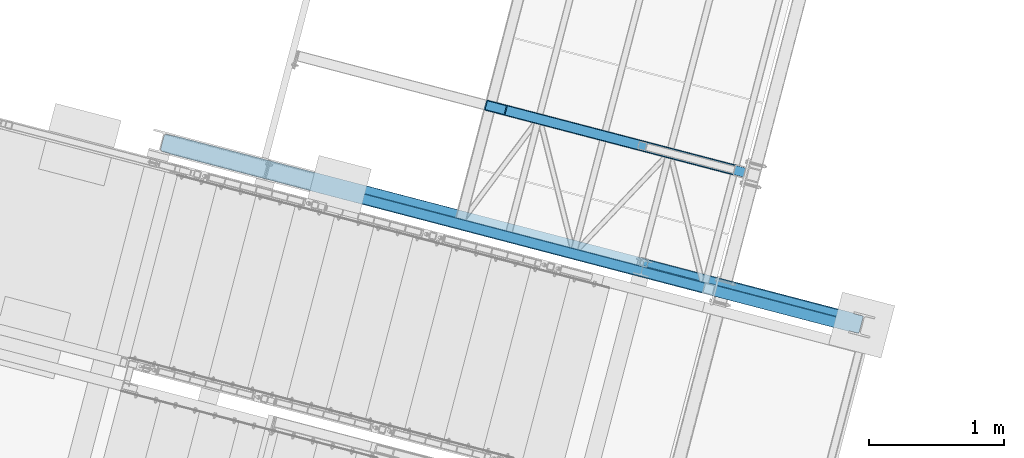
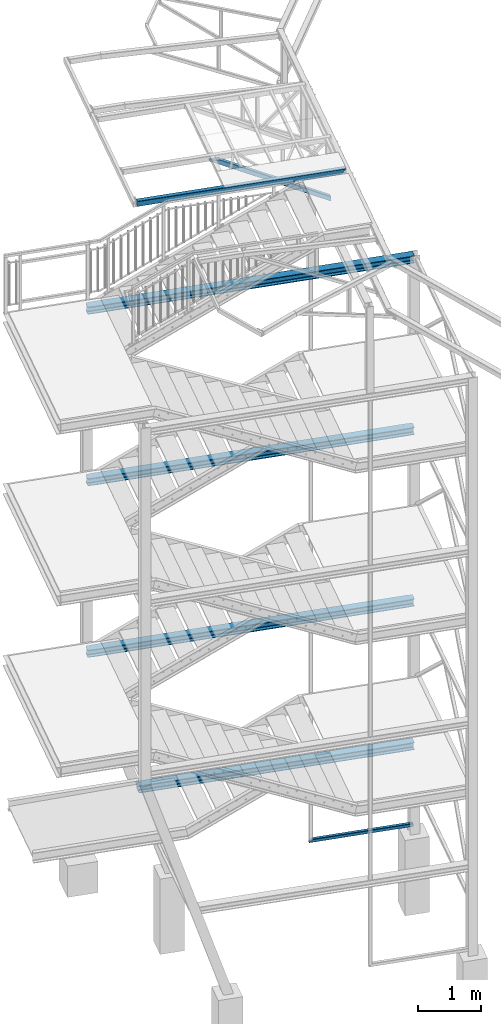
# One storey, part 47 of 169: 7 discrete accessories, 2 elements without a shape of their own.
"""IFC2X3 building model written with IfcOpenShell, lengths in millimetres."""

import ifcopenshell
import ifcopenshell.guid

model = None  # the IFC model being written
_history = None  # IfcOwnerHistory: only IFC2X3 demands one
_inside = {}  # id of a spatial element -> (the spatial element, [elements in it])
_under = {}  # id of a project, library or spatial element -> (it, [spatial elements below it])
_declared = {}  # id of a project -> (the project, [libraries it declares])
_typed = {}  # id of a type object -> (the type object, [elements of that type])
_made_of = {}  # id of a material, layer set ... -> (it, [elements and type objects made of it])


def new_model(schema):
    """Start an empty IFC model of exactly this schema.

    Asked for "IFC4X3", IfcOpenShell would pick the latest addendum, in which some entities
    have other attributes; the version numbers below select the first issue.
    IFC2X3 requires an IfcOwnerHistory on every rooted entity: one is made here for all.
    """
    global model, _history
    if schema == "IFC4X3":
        model = ifcopenshell.file(schema_version=(4, 3, 0, 0))
    else:
        model = ifcopenshell.file(schema=schema)
    _inside.clear()
    _under.clear()
    _declared.clear()
    _typed.clear()
    _made_of.clear()
    _history = None
    if model.schema == "IFC2X3":
        org = make("IfcOrganization", Name="unknown")
        user = make(
            "IfcPersonAndOrganization",
            ThePerson=make("IfcPerson", FamilyName="unknown"),
            TheOrganization=org,
        )
        app = make(
            "IfcApplication",
            ApplicationDeveloper=org,
            Version="unknown",
            ApplicationFullName="unknown",
            ApplicationIdentifier="unknown",
        )
        _history = make(
            "IfcOwnerHistory",
            OwningUser=user,
            OwningApplication=app,
            ChangeAction="ADDED",
            CreationDate=0,
        )
    return model


def make(cls, **values):
    """One entity of the class cls with the attributes given. An attribute that is None is left unset."""
    return model.create_entity(
        cls, **{name: value for name, value in values.items() if value is not None}
    )


def rooted(cls, **values):
    """An entity with a GlobalId (a new one), such as an element, a storey or a relation."""
    return make(cls, GlobalId=ifcopenshell.guid.new(), OwnerHistory=_history, **values)


def si_unit(unit_type, name, prefix=None):
    """IfcSIUnit, for example si_unit("LENGTHUNIT", "METRE", prefix="MILLI")."""
    return make("IfcSIUnit", UnitType=unit_type, Prefix=prefix, Name=name)


def assignment(units):
    """IfcUnitAssignment: the units of a project."""
    return None if units is None else make("IfcUnitAssignment", Units=units)


def point(xyz):
    """IfcCartesianPoint."""
    return None if xyz is None else make("IfcCartesianPoint", Coordinates=xyz)


def direction(xyz):
    """IfcDirection."""
    return None if xyz is None else make("IfcDirection", DirectionRatios=xyz)


def frame(location, z_axis=None, x_axis=None):
    """IfcAxis2Placement3D, a coordinate frame: its origin and axes. An axis left out is left unset."""
    return make(
        "IfcAxis2Placement3D",
        Location=point(location),
        Axis=direction(z_axis),
        RefDirection=direction(x_axis),
    )


def frame_2d(location, x_axis=None):
    """IfcAxis2Placement2D, a coordinate frame in the plane: its origin and x axis."""
    return make(
        "IfcAxis2Placement2D", Location=point(location), RefDirection=direction(x_axis)
    )


def origin_with_axes():
    """The frame at (0, 0, 0) with the z axis (0, 0, 1) and the x axis (1, 0, 0) written out."""
    return frame((0.0, 0.0, 0.0), z_axis=(0.0, 0.0, 1.0), x_axis=(1.0, 0.0, 0.0))


def origin_2d_with_axis():
    """The frame at (0, 0) in the plane with the x axis (1, 0) written out."""
    return frame_2d((0.0, 0.0), x_axis=(1.0, 0.0))


def place(relative_to, where):
    """IfcLocalPlacement: puts the frame where relative to a parent placement (None: the world)."""
    return make(
        "IfcLocalPlacement", PlacementRelTo=relative_to, RelativePlacement=where
    )


def context(
    kind, dimensions, precision=None, world=None, true_north=None, identifier=None
):
    """IfcGeometricRepresentationContext, for example the 3D "Model" context."""
    return make(
        "IfcGeometricRepresentationContext",
        ContextIdentifier=identifier,
        ContextType=kind,
        CoordinateSpaceDimension=dimensions,
        Precision=precision,
        WorldCoordinateSystem=world,
        TrueNorth=true_north,
    )


def subcontext(parent, identifier, kind, view, scale=None):
    """IfcGeometricRepresentationSubContext, for example "Body" below "Model"."""
    return make(
        "IfcGeometricRepresentationSubContext",
        ContextIdentifier=identifier,
        ContextType=kind,
        ParentContext=parent,
        TargetScale=scale,
        TargetView=view,
    )


def project(units=None, contexts=None):
    """IfcProject with its units and contexts."""
    return rooted(
        "IfcProject",
        Name="project",
        RepresentationContexts=contexts,
        UnitsInContext=assignment(units),
    )


def spatial(cls, under=None, at=None, **own):
    """A site, building, storey or space (cls), placed at a placement, below another one or the project."""
    s = rooted(cls, ObjectPlacement=at, **own)
    if under is not None:
        _under.setdefault(under.id(), (under, []))[1].append(s)
    return s


def polyline(points):
    """IfcPolyline through the points."""
    return make("IfcPolyline", Points=[point(p) for p in points])


def profile(cls, at=None, kind="AREA", **sizes):
    """A parametric profile (cls). Its sizes go by their IFC names, for example OverallWidth=200.0."""
    return make(cls, ProfileType=kind, Position=at, **sizes)


def hollow_rectangle(**sizes):
    """IfcRectangleHollowProfileDef."""
    return profile("IfcRectangleHollowProfileDef", **sizes)


def i_section(**sizes):
    """IfcIShapeProfileDef."""
    return profile("IfcIShapeProfileDef", **sizes)


def outline(outer, holes=None, kind="AREA"):
    """IfcArbitraryClosedProfileDef: a profile drawn as a closed curve; with holes, ...WithVoids."""
    if holes is None:
        return make("IfcArbitraryClosedProfileDef", ProfileType=kind, OuterCurve=outer)
    return make(
        "IfcArbitraryProfileDefWithVoids",
        ProfileType=kind,
        OuterCurve=outer,
        InnerCurves=holes,
    )


def extrude(swept, where, along, depth):
    """IfcExtrudedAreaSolid: the profile swept, set in the frame where, extruded along a direction by depth."""
    return make(
        "IfcExtrudedAreaSolid",
        SweptArea=swept,
        Position=where,
        ExtrudedDirection=direction(along),
        Depth=depth,
    )


def boolean(op, a, b):
    """IfcBooleanResult of two solids."""
    return make("IfcBooleanResult", Operator=op, FirstOperand=a, SecondOperand=b)


def clip(a, b, op="DIFFERENCE"):
    """IfcBooleanClippingResult: the solid a cut by the half space b."""
    return make(
        "IfcBooleanClippingResult", Operator=op, FirstOperand=a, SecondOperand=b
    )


def halfspace(plane, agree):
    """IfcHalfSpaceSolid: all space on one side of the plane z = 0 of the frame plane."""
    return make(
        "IfcHalfSpaceSolid",
        BaseSurface=make("IfcPlane", Position=plane),
        AgreementFlag=agree,
    )


def shape(context_of_items, identifier, shape_type, items):
    """IfcShapeRepresentation: the items that make up one representation, for example the "Body"."""
    return make(
        "IfcShapeRepresentation",
        ContextOfItems=context_of_items,
        RepresentationIdentifier=identifier,
        RepresentationType=shape_type,
        Items=items,
    )


def material(Name=None, Category=None):
    """IfcMaterial."""
    return make("IfcMaterial", Name=Name, Category=Category)


def made_of(thing, what):
    """Note that an element or type object is made of a material, layer set ...; save() writes the relation."""
    if what is not None:
        _made_of.setdefault(what.id(), (what, []))[1].append(thing)
    return thing


def type_object(cls, material=None, **own):
    """A type object (cls), such as IfcWallType, which elements share."""
    return made_of(rooted(cls, **own), material)


def element(
    cls,
    number,
    at=None,
    inside=None,
    cuts=None,
    type_object=None,
    material=None,
    context=None,
    identifier="Body",
    shape_type=None,
    held_by="IfcProductDefinitionShape",
    body=None,
    shapes=None,
    **own,
):
    """One element of the class cls, such as IfcWall. Its Tag is "e" and its number.

    at: its placement. inside: the storey or other place that contains it. cuts: it is an
    opening in that element (IfcRelVoidsElement). A single representation is given by context,
    identifier, shape_type and body (its items); several are given by shapes. held_by: the class
    of the entity that holds the representations. save() writes the other relations.
    """
    e = rooted(cls, Tag="e%d" % number, ObjectPlacement=at, **own)
    if body is not None:
        shapes = [shape(context, identifier, shape_type, body)]
    if shapes is not None:
        e.Representation = make(held_by, Representations=shapes)
    if inside is not None:
        _inside.setdefault(inside.id(), (inside, []))[1].append(e)
    if cuts is not None:
        rooted(
            "IfcRelVoidsElement", RelatingBuildingElement=cuts, RelatedOpeningElement=e
        )
    if type_object is not None:
        _typed.setdefault(type_object.id(), (type_object, []))[1].append(e)
    return made_of(e, material)


def aggregate(whole, parts):
    """IfcRelAggregates: a whole, such as a stair, and the parts it consists of."""
    return rooted("IfcRelAggregates", RelatingObject=whole, RelatedObjects=parts)


def save(model, path):
    """Write the relations noted so far, then the file.

    IfcRelAggregates (storeys below a building ...), IfcRelContainedInSpatialStructure (elements
    in a storey), IfcRelDefinesByType, IfcRelAssociatesMaterial and IfcRelDeclares: one each for
    every whole, place, type object, material and project.
    """
    for whole, parts in _under.values():
        aggregate(whole, parts)
    for where, things in _inside.values():
        rooted(
            "IfcRelContainedInSpatialStructure",
            RelatedElements=things,
            RelatingStructure=where,
        )
    for kind, things in _typed.values():
        rooted("IfcRelDefinesByType", RelatedObjects=things, RelatingType=kind)
    for what, things in _made_of.values():
        rooted("IfcRelAssociatesMaterial", RelatedObjects=things, RelatingMaterial=what)
    for by, libraries in _declared.values():
        rooted("IfcRelDeclares", RelatingContext=by, RelatedDefinitions=libraries)
    model.write(path)


model = new_model("IFC2X3")

# Units and contexts
model_context = context("Model", 3, precision=1e-05, world=origin_with_axes())
body_context = subcontext(model_context, "Body", "Model", "MODEL_VIEW")
ifc_project = project(units=[si_unit("LENGTHUNIT", "METRE", prefix="MILLI"), si_unit("AREAUNIT", "SQUARE_METRE"), si_unit("VOLUMEUNIT", "CUBIC_METRE"), si_unit("MASSUNIT", "GRAM", prefix="KILO"), si_unit("TIMEUNIT", "SECOND"), si_unit("PLANEANGLEUNIT", "RADIAN"), si_unit("SOLIDANGLEUNIT", "STERADIAN"), si_unit("THERMODYNAMICTEMPERATUREUNIT", "DEGREE_CELSIUS"), si_unit("LUMINOUSINTENSITYUNIT", "LUMEN")], contexts=[model_context])

# Site, building, storey
site_placement = place(None, origin_with_axes())
site = spatial("IfcSite", under=ifc_project, at=site_placement, Name="Undefined", CompositionType="ELEMENT")
building_placement = place(site_placement, origin_with_axes())
building = spatial("IfcBuilding", under=site, at=building_placement, Name="Undefined", CompositionType="ELEMENT")
storey_placement = place(building_placement, origin_with_axes())
storey = spatial("IfcBuildingStorey", under=building, at=storey_placement, Name="Undefined", CompositionType="ELEMENT", Elevation=0.0)

# Assembly, discrete accessories
assembly_1_placement = place(storey_placement, origin_with_axes())
assembly_1 = element("IfcElementAssembly", 1, at=assembly_1_placement, inside=storey, Name="Steel Assembly", AssemblyPlace="NOTDEFINED", PredefinedType="RIGID_FRAME")
ifc_material_1 = material(Name="STEEL/S355")
discrete_accessory_type_1 = type_object("IfcDiscreteAccessoryType", Name="BEAM")
discrete_accessory_1_placement = place(assembly_1_placement, frame((-23595.0401512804, 7908.83494133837, 13975.8197582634), z_axis=(-5.90399999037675e-06, -0.000139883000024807, -0.999999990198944), x_axis=(-0.967563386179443, 0.252628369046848, -2.9626000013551e-05)))
discrete_accessory_1 = element("IfcDiscreteAccessory", 2, at=discrete_accessory_1_placement, type_object=discrete_accessory_type_1, material=ifc_material_1, Name="BEAM", ObjectType="RHS100*80*4", context=body_context, shape_type="Clipping", body=[
    clip(clip(extrude(hollow_rectangle(XDim=80.0, YDim=100.0, WallThickness=4.0, InnerFilletRadius=4.0, OuterFilletRadius=8.0, at=origin_2d_with_axis()), frame((3416.99555623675, 1.37553656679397e-12, -1.15772312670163e-17), z_axis=(-1.0, -3.46944695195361e-18, -1.38777878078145e-17), x_axis=(1.73472347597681e-18, -1.0, 0.0)), (0.0, 0.0, 1.0), 3451.9), halfspace(frame((3416.99555622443, -9.36415744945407e-09, -50.0000000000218), z_axis=(-1.0, -3.46944695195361e-18, -1.38777878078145e-17), x_axis=(0.0, 1.0, 0.0)), True)), halfspace(frame((5.00000023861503, 6.82121026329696e-11, -50.0000000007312), z_axis=(-0.780868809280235, -4.01402798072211e-12, 0.624695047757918), x_axis=(0.0, 1.0, 0.0)), False)),
])
discrete_accessory_2_placement = place(assembly_1_placement, frame((-23336.8094832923, 8771.41920438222, 12810.374203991), z_axis=(-0.482291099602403, 0.125802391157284, -0.866930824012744), x_axis=(-0.838793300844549, 0.219077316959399, 0.498428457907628)))
discrete_accessory_2 = element("IfcDiscreteAccessory", 3, at=discrete_accessory_2_placement, type_object=discrete_accessory_type_1, material=ifc_material_1, Name="BEAM", ObjectType="SHS80*4", context=body_context, shape_type="Clipping", body=[
    clip(clip(extrude(hollow_rectangle(XDim=80.0, YDim=80.0, WallThickness=4.0, InnerFilletRadius=4.0, OuterFilletRadius=8.0, at=origin_2d_with_axis()), frame((2365.31932809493, -1.42091715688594e-12, -1.36424205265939e-12), z_axis=(-1.0, -3.46944695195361e-18, -1.38777878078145e-17), x_axis=(1.73472347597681e-18, -1.0, 0.0)), (0.0, 0.0, 1.0), 2450.45), halfspace(frame((3179.86809858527, -2.91447577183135e-09, 541.799949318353), z_axis=(-0.498454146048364, 1.6126674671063e-10, 0.866916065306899), x_axis=(1.73472347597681e-18, -1.0, 0.0)), True)), halfspace(frame((42.6242954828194, -38.6984627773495, 1.33514276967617e-07), z_axis=(0.86687176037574, 6.4399397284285e-09, 0.498531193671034), x_axis=(-0.498531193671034, 4.97002474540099e-11, 0.86687176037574)), True)),
])
aggregate(assembly_1, [discrete_accessory_1, discrete_accessory_2])

assembly_2_placement = place(storey_placement, origin_with_axes())
assembly_2 = element("IfcElementAssembly", 4, at=assembly_2_placement, inside=storey, Name="Steel Assembly", AssemblyPlace="NOTDEFINED", PredefinedType="RIGID_FRAME")
ifc_material_2 = material(Name="STEEL/S235")
discrete_accessory_3_placement = place(assembly_2_placement, frame((-24117.8244284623, 8115.86398471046, 1139.96658018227), z_axis=(-3.45692487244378e-05, -0.000132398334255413, -0.999999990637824), x_axis=(0.967563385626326, -0.252628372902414, 0.0)))
discrete_accessory_3 = element("IfcDiscreteAccessory", 5, at=discrete_accessory_3_placement, type_object=discrete_accessory_type_1, material=ifc_material_2, Name="BEAM", ObjectType="SHS60*4", context=body_context, shape_type="CSG", body=[
    boolean("DIFFERENCE", boolean("DIFFERENCE", boolean("DIFFERENCE", extrude(hollow_rectangle(XDim=60.0, YDim=60.0, WallThickness=4.0, InnerFilletRadius=4.0, OuterFilletRadius=8.0, at=origin_2d_with_axis()), frame((1670.00000012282, -6.82121026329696e-13, -2.27373675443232e-13), z_axis=(-1.0, -3.46944695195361e-18, -1.38777878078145e-17), x_axis=(1.73472347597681e-18, -1.0, 0.0)), (0.0, 0.0, 1.0), 1728.94), extrude(outline(polyline([(0.0, 0.0), (22732.3730468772, -6.62703314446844e-09), (22732.3730468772, 13.9999999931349), (2.02362571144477e-11, 14.000007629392), (0.0, 0.0)])), frame((24327.3732420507, -25.9999922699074, -39.9999952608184), z_axis=(0.0, 0.0, 1.0), x_axis=(-1.0, -3.46944695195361e-18, -1.38777878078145e-17)), (0.0, 0.0, 1.0), 80.0)), halfspace(frame((1670.00000035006, -29.9999999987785, -1030.00000474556), z_axis=(1.0, 0.0, 0.0), x_axis=(1.73472347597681e-18, -1.0, 0.0)), False)), halfspace(frame((29.9999997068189, -6.7422047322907e-07, -30.0000000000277), z_axis=(0.707106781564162, 2.34575523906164e-10, 0.707106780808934), x_axis=(1.73472347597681e-18, -1.0, 0.0)), True)),
])
discrete_accessory_type_2 = type_object("IfcDiscreteAccessoryType", Name="COLUMN")
discrete_accessory_4_placement = place(assembly_2_placement, frame((-27605.942096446, 8986.80756551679, 12069.971951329), z_axis=(3.4552000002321e-05, 0.000132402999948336, 0.999999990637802), x_axis=(0.967563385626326, -0.252628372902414, 0.0)))
discrete_accessory_4 = element("IfcDiscreteAccessory", 6, at=discrete_accessory_4_placement, type_object=discrete_accessory_type_2, material=ifc_material_2, Name="COLUMN", ObjectType="HEB140", context=body_context, shape_type="CSG", body=[
    boolean("DIFFERENCE", boolean("DIFFERENCE", boolean("DIFFERENCE", boolean("DIFFERENCE", boolean("DIFFERENCE", boolean("DIFFERENCE", boolean("DIFFERENCE", boolean("DIFFERENCE", extrude(i_section(OverallWidth=140.0, OverallDepth=140.0, WebThickness=7.0, FlangeThickness=12.0, FilletRadius=12.0, at=origin_2d_with_axis()), frame((5265.00000257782, -1.62481139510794e-13, 1.81902508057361e-12), z_axis=(-1.0, -3.46944695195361e-18, -1.38777878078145e-17), x_axis=(1.73472347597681e-18, -1.0, 0.0)), (0.0, 0.0, 1.0), 5340.0), extrude(outline(polyline([(0.0, 0.0), (15.9999999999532, -1.09139364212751e-11), (15.9999999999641, 10.8000001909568), (0.699999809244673, 26.1000003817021), (-1.00044417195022e-11, 26.1000003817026), (0.0, 0.0)])), frame((-86.0999985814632, -67.0000029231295, 75.000000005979), z_axis=(-2.54700353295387e-10, 0.0, -1.0), x_axis=(0.0, 1.0, 0.0)), (0.0, 0.0, 1.0), 150.0)), extrude(outline(polyline([(0.0, 0.0), (15.9999999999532, -1.09139364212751e-11), (15.9999999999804, 26.1000003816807), (15.300000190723, 26.1000003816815), (-4.89245427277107e-12, 10.8000001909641), (0.0, 0.0)])), frame((-86.0999985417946, 50.9999971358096, 75.0000000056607), z_axis=(-2.54700353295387e-10, 0.0, -1.0), x_axis=(0.0, 1.0, 0.0)), (0.0, 0.0, 1.0), 150.0)), extrude(outline(polyline([(0.0, 0.0), (85.0000000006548, 2.81943357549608e-10), (85.0000000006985, 14.0000028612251), (2.02362571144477e-11, 14.000007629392), (0.0, 0.0)])), frame((-84.999998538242, 65.9999970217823, -79.9999999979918), z_axis=(0.0, 0.0, 1.0), x_axis=(1.0, 0.0, 0.0)), (0.0, 0.0, 1.0), 160.0)), extrude(outline(polyline([(0.0, 0.0), (85.0000000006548, 2.81943357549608e-10), (85.0000000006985, 14.0000028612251), (2.02362571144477e-11, 14.000007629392), (0.0, 0.0)])), frame((-84.9999985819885, -66.0000029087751, 80.0000000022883), z_axis=(-2.54700353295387e-10, 0.0, -1.0), x_axis=(1.0, 0.0, 0.0)), (0.0, 0.0, 1.0), 160.0)), extrude(outline(polyline([(0.0, 0.0), (18928.8652343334, -2.22985363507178e-09), (18928.8652343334, 14.0000047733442), (2.02362571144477e-11, 14.000007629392), (0.0, 0.0)])), frame((24118.86553269, 65.9999888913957, 79.9999959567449), z_axis=(-2.54700353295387e-10, 0.0, -1.0), x_axis=(-1.0, -3.46944695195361e-18, -1.38777878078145e-17)), (0.0, 0.0, 1.0), 160.0)), extrude(outline(polyline([(0.0, 0.0), (18928.8652343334, -2.22985363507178e-09), (18928.8652343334, 14.0000047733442), (2.02362571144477e-11, 14.000007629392), (0.0, 0.0)])), frame((24118.8655326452, -66.0000111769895, -80.0000039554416), z_axis=(0.0, 0.0, 1.0), x_axis=(-1.0, -3.46944695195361e-18, -1.38777878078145e-17)), (0.0, 0.0, 1.0), 160.0)), halfspace(frame((5265.00000282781, 69.9999999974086, 1070.00000396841), z_axis=(1.0, 0.0, 0.0), x_axis=(0.0, 1.0, 0.0)), False)), halfspace(frame((-74.9999983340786, -69.999999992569, 1070.0000011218), z_axis=(-1.0, -3.46944695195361e-18, -1.38777878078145e-17), x_axis=(1.73472347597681e-18, -1.0, 0.0)), False)),
])
discrete_accessory_5_placement = place(assembly_2_placement, frame((-27606.0561738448, 8986.37065056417, 8769.97198222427), z_axis=(3.4552000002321e-05, 0.000132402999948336, 0.999999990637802), x_axis=(0.967563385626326, -0.252628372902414, 0.0)))
discrete_accessory_5 = element("IfcDiscreteAccessory", 7, at=discrete_accessory_5_placement, type_object=discrete_accessory_type_2, material=ifc_material_2, Name="COLUMN", ObjectType="HEB140", context=body_context, shape_type="CSG", body=[
    boolean("DIFFERENCE", boolean("DIFFERENCE", boolean("DIFFERENCE", boolean("DIFFERENCE", boolean("DIFFERENCE", boolean("DIFFERENCE", boolean("DIFFERENCE", boolean("DIFFERENCE", extrude(i_section(OverallWidth=140.0, OverallDepth=140.0, WebThickness=7.0, FlangeThickness=12.0, FilletRadius=12.0, at=origin_2d_with_axis()), frame((5265.00000257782, -1.62481139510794e-13, 1.81902508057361e-12), z_axis=(-1.0, -3.46944695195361e-18, -1.38777878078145e-17), x_axis=(1.73472347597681e-18, -1.0, 0.0)), (0.0, 0.0, 1.0), 5340.0), extrude(outline(polyline([(0.0, 0.0), (15.9999999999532, -1.09139364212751e-11), (15.9999999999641, 10.8000001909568), (0.699999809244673, 26.1000003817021), (-1.00044417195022e-11, 26.1000003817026), (0.0, 0.0)])), frame((-86.0999985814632, -67.0000029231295, 75.000000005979), z_axis=(-2.54700353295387e-10, 0.0, -1.0), x_axis=(0.0, 1.0, 0.0)), (0.0, 0.0, 1.0), 150.0)), extrude(outline(polyline([(0.0, 0.0), (15.9999999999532, -1.09139364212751e-11), (15.9999999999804, 26.1000003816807), (15.300000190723, 26.1000003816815), (-4.89245427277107e-12, 10.8000001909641), (0.0, 0.0)])), frame((-86.0999985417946, 50.9999971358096, 75.0000000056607), z_axis=(-2.54700353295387e-10, 0.0, -1.0), x_axis=(0.0, 1.0, 0.0)), (0.0, 0.0, 1.0), 150.0)), extrude(outline(polyline([(0.0, 0.0), (85.0000000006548, 2.81943357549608e-10), (85.0000000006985, 14.0000028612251), (2.02362571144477e-11, 14.000007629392), (0.0, 0.0)])), frame((-84.999998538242, 65.9999970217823, -79.9999999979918), z_axis=(0.0, 0.0, 1.0), x_axis=(1.0, 0.0, 0.0)), (0.0, 0.0, 1.0), 160.0)), extrude(outline(polyline([(0.0, 0.0), (85.0000000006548, 2.81943357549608e-10), (85.0000000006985, 14.0000028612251), (2.02362571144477e-11, 14.000007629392), (0.0, 0.0)])), frame((-84.9999985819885, -66.0000029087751, 80.0000000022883), z_axis=(-2.54700353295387e-10, 0.0, -1.0), x_axis=(1.0, 0.0, 0.0)), (0.0, 0.0, 1.0), 160.0)), extrude(outline(polyline([(0.0, 0.0), (18928.9843749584, -2.27169039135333e-09), (18928.9843749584, 14.0000028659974), (2.02362571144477e-11, 14.000007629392), (0.0, 0.0)])), frame((24118.9834344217, 65.9999903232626, 79.9999959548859), z_axis=(-2.54700353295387e-10, 0.0, -1.0), x_axis=(-1.0, -3.46944695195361e-18, -1.38777878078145e-17)), (0.0, 0.0, 1.0), 160.0)), extrude(outline(polyline([(0.0, 0.0), (18928.9843749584, -2.27169039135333e-09), (18928.9843749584, 14.0000028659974), (2.02362571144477e-11, 14.000007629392), (0.0, 0.0)])), frame((24118.9834343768, -66.0000097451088, -80.00000395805), z_axis=(0.0, 0.0, 1.0), x_axis=(-1.0, -3.46944695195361e-18, -1.38777878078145e-17)), (0.0, 0.0, 1.0), 160.0)), halfspace(frame((5265.00000282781, 69.9999999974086, 1070.00000396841), z_axis=(1.0, 0.0, 0.0), x_axis=(0.0, 1.0, 0.0)), False)), halfspace(frame((-74.9999983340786, -69.999999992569, 1070.0000011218), z_axis=(-1.0, -3.46944695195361e-18, -1.38777878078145e-17), x_axis=(1.73472347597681e-18, -1.0, 0.0)), False)),
])
discrete_accessory_6_placement = place(assembly_2_placement, frame((-27606.1702512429, 8985.93373561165, 5469.97201311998), z_axis=(3.4552000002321e-05, 0.000132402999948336, 0.999999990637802), x_axis=(0.967563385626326, -0.252628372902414, 0.0)))
discrete_accessory_6 = element("IfcDiscreteAccessory", 8, at=discrete_accessory_6_placement, type_object=discrete_accessory_type_2, material=ifc_material_2, Name="COLUMN", ObjectType="HEB140", context=body_context, shape_type="CSG", body=[
    boolean("DIFFERENCE", boolean("DIFFERENCE", boolean("DIFFERENCE", boolean("DIFFERENCE", boolean("DIFFERENCE", boolean("DIFFERENCE", boolean("DIFFERENCE", boolean("DIFFERENCE", extrude(i_section(OverallWidth=140.0, OverallDepth=140.0, WebThickness=7.0, FlangeThickness=12.0, FilletRadius=12.0, at=origin_2d_with_axis()), frame((5265.00000257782, -1.62481139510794e-13, 1.81902508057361e-12), z_axis=(-1.0, -3.46944695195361e-18, -1.38777878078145e-17), x_axis=(1.73472347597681e-18, -1.0, 0.0)), (0.0, 0.0, 1.0), 5340.0), extrude(outline(polyline([(0.0, 0.0), (15.9999999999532, -1.09139364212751e-11), (15.9999999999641, 10.8000001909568), (0.699999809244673, 26.1000003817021), (-1.00044417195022e-11, 26.1000003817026), (0.0, 0.0)])), frame((-86.0999985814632, -67.0000029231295, 75.000000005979), z_axis=(-2.54700353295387e-10, 0.0, -1.0), x_axis=(0.0, 1.0, 0.0)), (0.0, 0.0, 1.0), 150.0)), extrude(outline(polyline([(0.0, 0.0), (15.9999999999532, -1.09139364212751e-11), (15.9999999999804, 26.1000003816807), (15.300000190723, 26.1000003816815), (-4.89245427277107e-12, 10.8000001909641), (0.0, 0.0)])), frame((-86.0999985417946, 50.9999971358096, 75.0000000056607), z_axis=(-2.54700353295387e-10, 0.0, -1.0), x_axis=(0.0, 1.0, 0.0)), (0.0, 0.0, 1.0), 150.0)), extrude(outline(polyline([(0.0, 0.0), (85.0000000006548, 2.81943357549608e-10), (85.0000000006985, 14.0000028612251), (2.02362571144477e-11, 14.000007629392), (0.0, 0.0)])), frame((-84.999998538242, 65.9999970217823, -79.9999999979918), z_axis=(0.0, 0.0, 1.0), x_axis=(1.0, 0.0, 0.0)), (0.0, 0.0, 1.0), 160.0)), extrude(outline(polyline([(0.0, 0.0), (85.0000000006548, 2.81943357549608e-10), (85.0000000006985, 14.0000028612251), (2.02362571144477e-11, 14.000007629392), (0.0, 0.0)])), frame((-84.9999985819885, -66.0000029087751, 80.0000000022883), z_axis=(-2.54700353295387e-10, 0.0, -1.0), x_axis=(1.0, 0.0, 0.0)), (0.0, 0.0, 1.0), 160.0)), extrude(outline(polyline([(0.0, 0.0), (18929.1015624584, -2.21098162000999e-09), (18929.1015624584, 14.000001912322), (2.02362571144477e-11, 14.000007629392), (0.0, 0.0)])), frame((24119.1013361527, 65.9999917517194, 79.9999960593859), z_axis=(-2.54700353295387e-10, 0.0, -1.0), x_axis=(-1.0, -3.46944695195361e-18, -1.38777878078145e-17)), (0.0, 0.0, 1.0), 160.0)), extrude(outline(polyline([(0.0, 0.0), (18929.1015624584, -2.21098162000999e-09), (18929.1015624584, 14.000001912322), (2.02362571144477e-11, 14.000007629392), (0.0, 0.0)])), frame((24119.101336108, -66.0000083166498, -80.0000039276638), z_axis=(0.0, 0.0, 1.0), x_axis=(-1.0, -3.46944695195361e-18, -1.38777878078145e-17)), (0.0, 0.0, 1.0), 160.0)), halfspace(frame((5265.00000282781, 69.9999999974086, 1070.00000396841), z_axis=(1.0, 0.0, 0.0), x_axis=(0.0, 1.0, 0.0)), False)), halfspace(frame((-74.9999983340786, -69.999999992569, 1070.0000011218), z_axis=(-1.0, -3.46944695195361e-18, -1.38777878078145e-17), x_axis=(1.73472347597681e-18, -1.0, 0.0)), False)),
])
discrete_accessory_7_placement = place(assembly_2_placement, frame((-26896.8709519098, 8800.34713665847, 2709.97203896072), z_axis=(3.4552000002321e-05, 0.000132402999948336, 0.999999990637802), x_axis=(0.967563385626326, -0.252628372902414, 0.0)))
discrete_accessory_7 = element("IfcDiscreteAccessory", 9, at=discrete_accessory_7_placement, type_object=discrete_accessory_type_2, material=ifc_material_2, Name="COLUMN", ObjectType="HEB140", context=body_context, shape_type="CSG", body=[
    boolean("DIFFERENCE", boolean("DIFFERENCE", boolean("DIFFERENCE", boolean("DIFFERENCE", boolean("DIFFERENCE", boolean("DIFFERENCE", boolean("DIFFERENCE", boolean("DIFFERENCE", extrude(i_section(OverallWidth=140.0, OverallDepth=140.0, WebThickness=7.0, FlangeThickness=12.0, FilletRadius=12.0, at=origin_2d_with_axis()), frame((4531.82352852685, -9.09494701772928e-13, -4.54747350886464e-13), z_axis=(-1.0, -3.46944695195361e-18, -1.38777878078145e-17), x_axis=(1.73472347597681e-18, -1.0, 0.0)), (0.0, 0.0, 1.0), 4526.58), extrude(outline(polyline([(0.0, 0.0), (15.9999999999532, -1.09139364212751e-11), (15.9999999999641, 10.8000001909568), (0.699999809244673, 26.1000003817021), (-1.00044417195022e-11, 26.1000003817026), (0.0, 0.0)])), frame((-30.6171223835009, -66.9999998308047, 76.2379851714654), z_axis=(0.302740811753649, -5.14842480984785e-10, -0.953072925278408), x_axis=(0.0, 1.0, 0.0)), (0.0, 0.0, 1.0), 166.4)), extrude(outline(polyline([(0.0, 0.0), (15.9999999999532, -1.09139364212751e-11), (15.9999999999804, 26.1000003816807), (15.300000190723, 26.1000003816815), (-4.89245427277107e-12, 10.8000001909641), (0.0, 0.0)])), frame((-30.6171223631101, 51.0000002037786, 76.237985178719), z_axis=(0.302740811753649, -5.14842480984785e-10, -0.953072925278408), x_axis=(0.0, 1.0, 0.0)), (0.0, 0.0, 1.0), 166.4)), extrude(outline(polyline([(0.0, 0.0), (85.0000000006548, 2.81943357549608e-10), (85.0000000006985, 14.0000028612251), (2.02362571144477e-11, 14.000007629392), (0.0, 0.0)])), frame((-36.9556179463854, -65.999999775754, 99.8259794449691), z_axis=(0.302740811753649, -5.14842480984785e-10, -0.953072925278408), x_axis=(0.953072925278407, 1.45476180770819e-10, 0.302740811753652)), (0.0, 0.0, 1.0), 215.2)), extrude(outline(polyline([(0.0, 0.0), (85.0000000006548, 2.81943357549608e-10), (85.0000000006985, 14.0000028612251), (2.02362571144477e-11, 14.000007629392), (0.0, 0.0)])), frame((28.1942047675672, 66.0000000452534, -105.275314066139), z_axis=(-0.302740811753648, 5.91415674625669e-10, 0.953072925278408), x_axis=(0.953072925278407, 1.45476180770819e-10, 0.302740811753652)), (0.0, 0.0, 1.0), 215.2)), extrude(outline(polyline([(0.0, 0.0), (19792.8789062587, -4.59294824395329e-10), (19792.8789062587, 14.0000009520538), (2.02362571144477e-11, 14.000007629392), (0.0, 0.0)])), frame((24249.7020760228, 65.9999926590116, 79.9999958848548), z_axis=(-2.54700353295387e-10, 0.0, -1.0), x_axis=(-1.0, -3.46944695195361e-18, -1.38777878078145e-17)), (0.0, 0.0, 1.0), 160.0)), extrude(outline(polyline([(0.0, 0.0), (19792.8789062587, -4.59294824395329e-10), (19792.8789062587, 14.0000009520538), (2.02362571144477e-11, 14.000007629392), (0.0, 0.0)])), frame((24249.7020759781, -66.0000074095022, -80.0000041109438), z_axis=(0.0, 0.0, 1.0), x_axis=(-1.0, -3.46944695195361e-18, -1.38777878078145e-17)), (0.0, 0.0, 1.0), 160.0)), halfspace(frame((4531.82352877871, 69.9999999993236, 1070.00000411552), z_axis=(1.0, 0.0, 0.0), x_axis=(0.0, 1.0, 0.0)), False)), halfspace(frame((-318.17283290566, -70.0000000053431, 1018.17098913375), z_axis=(-0.953072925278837, 1.9166595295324e-10, -0.302740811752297), x_axis=(1.73472347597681e-18, -1.0, 0.0)), False)),
])
aggregate(assembly_2, [discrete_accessory_3, discrete_accessory_4, discrete_accessory_5, discrete_accessory_6, discrete_accessory_7])

save(model, "model.ifc")
